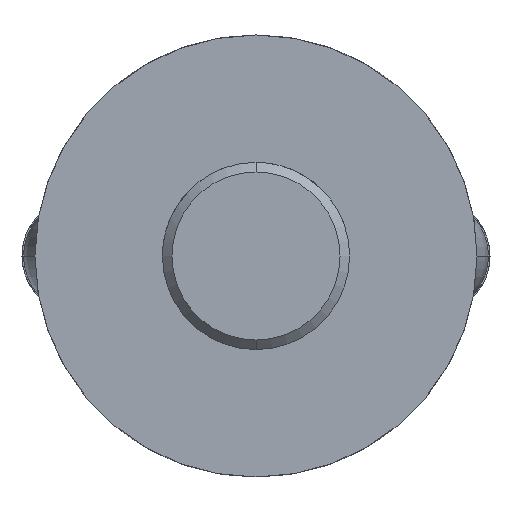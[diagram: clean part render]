
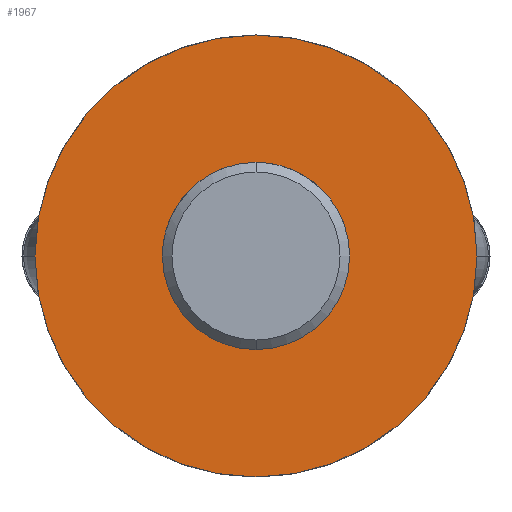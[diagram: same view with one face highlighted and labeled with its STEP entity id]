
A CAD part, front view. The second image highlights one B-rep face of the part: STEP entity #1967.
In plain terms, the highlighted planar face has unit normal (0, -1, 0).
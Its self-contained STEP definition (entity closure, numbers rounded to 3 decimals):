
#1829=CARTESIAN_POINT('Vertex',(0.,0.,85.)) ;
#1841=CARTESIAN_POINT('Vertex',(0.,0.,-85.)) ;
#1844=CARTESIAN_POINT('Axis2P3D Location',(0.,0.,0.)) ;
#1848=CARTESIAN_POINT('Vertex',(-85.,0.,0.)) ;
#1851=CARTESIAN_POINT('Axis2P3D Location',(0.,0.,0.)) ;
#1878=CARTESIAN_POINT('Axis2P3D Location',(0.,0.,0.)) ;
#1882=CARTESIAN_POINT('Vertex',(85.,0.,0.)) ;
#1885=CARTESIAN_POINT('Axis2P3D Location',(0.,0.,0.)) ;
#1922=CARTESIAN_POINT('Axis2P3D Location',(85.,0.,0.)) ;
#1933=CARTESIAN_POINT('Axis2P3D Location',(0.,0.,0.)) ;
#1937=CARTESIAN_POINT('Vertex',(36.,0.,0.)) ;
#1939=CARTESIAN_POINT('Vertex',(0.,0.,-36.)) ;
#1942=CARTESIAN_POINT('Axis2P3D Location',(0.,0.,0.)) ;
#1946=CARTESIAN_POINT('Vertex',(-36.,0.,0.)) ;
#1949=CARTESIAN_POINT('Axis2P3D Location',(0.,0.,0.)) ;
#1953=CARTESIAN_POINT('Vertex',(0.,0.,36.)) ;
#1956=CARTESIAN_POINT('Axis2P3D Location',(0.,0.,0.)) ;
#1845=DIRECTION('Axis2P3D Direction',(0.,1.,0.)) ;
#1852=DIRECTION('Axis2P3D Direction',(0.,1.,0.)) ;
#1879=DIRECTION('Axis2P3D Direction',(0.,1.,0.)) ;
#1886=DIRECTION('Axis2P3D Direction',(0.,1.,0.)) ;
#1923=DIRECTION('Axis2P3D Direction',(0.,1.,0.)) ;
#1924=DIRECTION('Axis2P3D XDirection',(0.,-0.,1.)) ;
#1934=DIRECTION('Axis2P3D Direction',(0.,1.,0.)) ;
#1943=DIRECTION('Axis2P3D Direction',(0.,1.,0.)) ;
#1950=DIRECTION('Axis2P3D Direction',(0.,1.,0.)) ;
#1957=DIRECTION('Axis2P3D Direction',(0.,1.,0.)) ;
#1846=AXIS2_PLACEMENT_3D('Circle Axis2P3D',#1844,#1845,$) ;
#1853=AXIS2_PLACEMENT_3D('Circle Axis2P3D',#1851,#1852,$) ;
#1880=AXIS2_PLACEMENT_3D('Circle Axis2P3D',#1878,#1879,$) ;
#1887=AXIS2_PLACEMENT_3D('Circle Axis2P3D',#1885,#1886,$) ;
#1925=AXIS2_PLACEMENT_3D('Plane Axis2P3D',#1922,#1923,#1924) ;
#1935=AXIS2_PLACEMENT_3D('Circle Axis2P3D',#1933,#1934,$) ;
#1944=AXIS2_PLACEMENT_3D('Circle Axis2P3D',#1942,#1943,$) ;
#1951=AXIS2_PLACEMENT_3D('Circle Axis2P3D',#1949,#1950,$) ;
#1958=AXIS2_PLACEMENT_3D('Circle Axis2P3D',#1956,#1957,$) ;
#1928=ORIENTED_EDGE('',*,*,#1884,.T.) ;
#1929=ORIENTED_EDGE('',*,*,#1855,.T.) ;
#1930=ORIENTED_EDGE('',*,*,#1850,.T.) ;
#1931=ORIENTED_EDGE('',*,*,#1889,.T.) ;
#1962=ORIENTED_EDGE('',*,*,#1941,.T.) ;
#1963=ORIENTED_EDGE('',*,*,#1948,.T.) ;
#1964=ORIENTED_EDGE('',*,*,#1955,.T.) ;
#1965=ORIENTED_EDGE('',*,*,#1960,.T.) ;
#1966=FACE_BOUND('',#1961,.T.) ;
#1967=ADVANCED_FACE('_C80025072108',(#1932,#1966),#1926,.F.) ;
#1847=CIRCLE('generated circle',#1846,85.) ;
#1854=CIRCLE('generated circle',#1853,85.) ;
#1881=CIRCLE('generated circle',#1880,85.) ;
#1888=CIRCLE('generated circle',#1887,85.) ;
#1936=CIRCLE('generated circle',#1935,36.) ;
#1945=CIRCLE('generated circle',#1944,36.) ;
#1952=CIRCLE('generated circle',#1951,36.) ;
#1959=CIRCLE('generated circle',#1958,36.) ;
#1850=EDGE_CURVE('',#1849,#1842,#1847,.F.) ;
#1855=EDGE_CURVE('',#1830,#1849,#1854,.F.) ;
#1884=EDGE_CURVE('',#1883,#1830,#1881,.F.) ;
#1889=EDGE_CURVE('',#1842,#1883,#1888,.F.) ;
#1941=EDGE_CURVE('',#1938,#1940,#1936,.T.) ;
#1948=EDGE_CURVE('',#1940,#1947,#1945,.T.) ;
#1955=EDGE_CURVE('',#1947,#1954,#1952,.T.) ;
#1960=EDGE_CURVE('',#1954,#1938,#1959,.T.) ;
#1927=EDGE_LOOP('',(#1928,#1929,#1930,#1931)) ;
#1961=EDGE_LOOP('',(#1962,#1963,#1964,#1965)) ;
#1932=FACE_OUTER_BOUND('',#1927,.T.) ;
#1926=PLANE('Plane',#1925) ;
#1830=VERTEX_POINT('',#1829) ;
#1842=VERTEX_POINT('',#1841) ;
#1849=VERTEX_POINT('',#1848) ;
#1883=VERTEX_POINT('',#1882) ;
#1938=VERTEX_POINT('',#1937) ;
#1940=VERTEX_POINT('',#1939) ;
#1947=VERTEX_POINT('',#1946) ;
#1954=VERTEX_POINT('',#1953) ;
